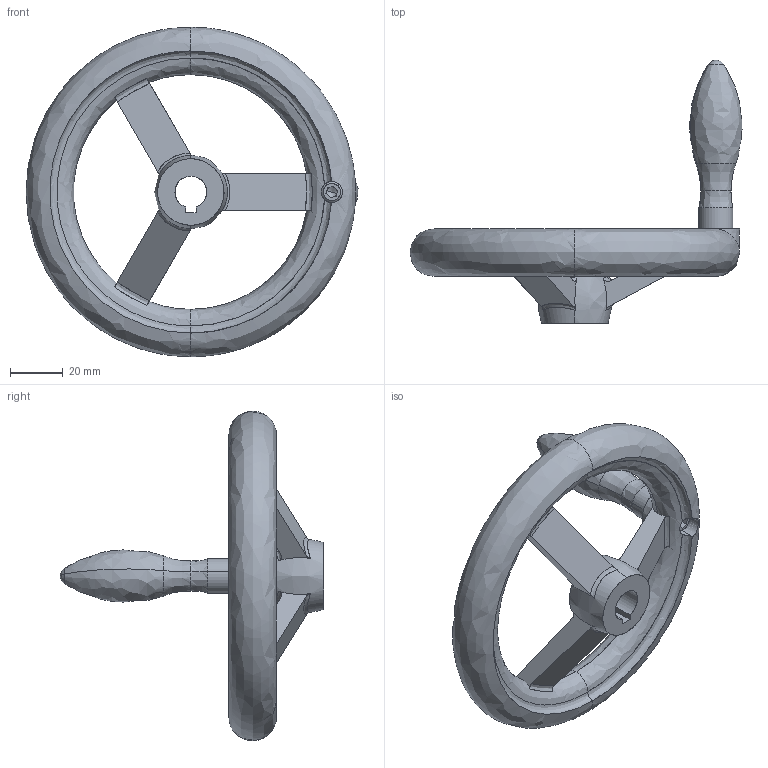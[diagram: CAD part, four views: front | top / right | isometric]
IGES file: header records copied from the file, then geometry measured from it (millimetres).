
Start section: SolidWorks IGES file using analytic representation for surfaces
Global section: file name: C:\Users\IanO\Desktop\Temp File\Process pending\77120_v2\77120_v2_20171108_IGES\77120.W0510.igs; native system: SolidWorks 2017; preprocessor: SolidWorks 2017; author: IanO; date: 171108.083841; units: millimetre
Bounding box: 125.9 x 100 x 125 mm (x, y, z)
Surface area: 30239.9 mm2 (no closed solid volume)
Topology: 0 solids, 0 shells, 129 faces, 1525 edges, 1516 vertices
Faces by surface type: bspline 76, revolution 53
